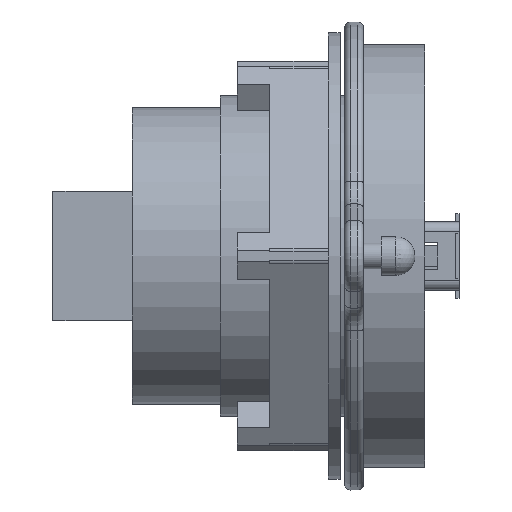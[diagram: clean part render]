
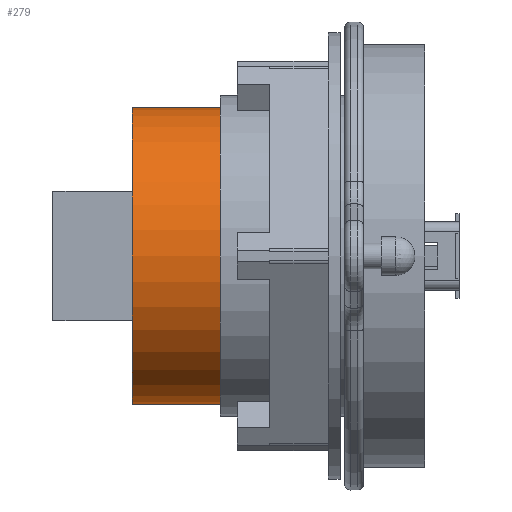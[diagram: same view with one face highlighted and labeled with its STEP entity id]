
A CAD part, left-side view. The second image highlights one B-rep face of the part: STEP entity #279.
In plain terms, the highlighted cylindrical face has radius 12.654 mm (diameter 25.309 mm), a full revolution.
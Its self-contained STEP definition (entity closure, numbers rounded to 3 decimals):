
#279 = ADVANCED_FACE ( 'NONE', ( #1325, #1331 ), #1333, .T. ) ;
#530 = EDGE_CURVE ( 'NONE', #9406, #9406, #2817, .T. ) ;
#531 = EDGE_CURVE ( 'NONE', #9347, #9347, #2818, .T. ) ;
#1148 = DIRECTION ( 'NONE',  ( -1., 0., 0. ) ) ;
#1149 = CARTESIAN_POINT ( 'NONE',  ( 8.55, 14.854, -10.454 ) ) ;
#1150 = DIRECTION ( 'NONE',  ( 0., -1., 0. ) ) ;
#1325 = FACE_OUTER_BOUND ( 'NONE', #10381, .T. ) ;
#1331 = FACE_OUTER_BOUND ( 'NONE', #10414, .T. ) ;
#1333 = CYLINDRICAL_SURFACE ( 'NONE', #12867, 12.654 ) ;
#2451 = AXIS2_PLACEMENT_3D ( 'NONE', #3953, #3954, #3955 ) ;
#2452 = AXIS2_PLACEMENT_3D ( 'NONE', #3957, #3958, #3959 ) ;
#2817 = CIRCLE ( 'NONE', #2451, 12.654 ) ;
#2818 = CIRCLE ( 'NONE', #2452, 12.654 ) ;
#3953 = CARTESIAN_POINT ( 'NONE',  ( 8.55, 13.449, -10.454 ) ) ;
#3954 = DIRECTION ( 'NONE',  ( 0., -1., 0. ) ) ;
#3955 = DIRECTION ( 'NONE',  ( -1., 0., 0. ) ) ;
#3957 = CARTESIAN_POINT ( 'NONE',  ( 8.55, 5.948, -10.454 ) ) ;
#3958 = DIRECTION ( 'NONE',  ( 0., -1., 0. ) ) ;
#3959 = DIRECTION ( 'NONE',  ( -1., 0., 0. ) ) ;
#9347 = VERTEX_POINT ( 'NONE', #10162 ) ;
#9406 = VERTEX_POINT ( 'NONE', #10160 ) ;
#10160 = CARTESIAN_POINT ( 'NONE',  ( -4.104, 13.449, -10.454 ) ) ;
#10162 = CARTESIAN_POINT ( 'NONE',  ( -4.104, 5.948, -10.454 ) ) ;
#10381 = EDGE_LOOP ( 'NONE', ( #10795 ) ) ;
#10414 = EDGE_LOOP ( 'NONE', ( #10796 ) ) ;
#10795 = ORIENTED_EDGE ( 'NONE', *, *, #531, .F. ) ;
#10796 = ORIENTED_EDGE ( 'NONE', *, *, #530, .T. ) ;
#12867 = AXIS2_PLACEMENT_3D ( 'NONE', #1149, #1150, #1148 ) ;
